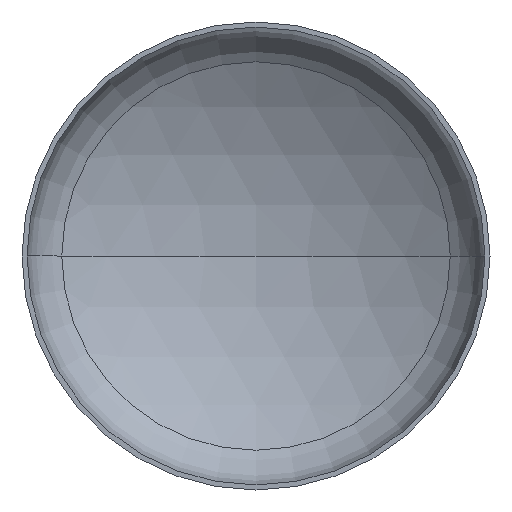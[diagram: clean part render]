
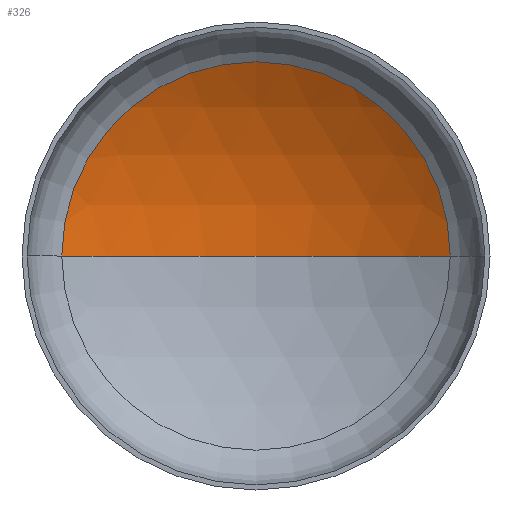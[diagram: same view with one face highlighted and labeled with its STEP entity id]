
A CAD part, front view. The second image highlights one B-rep face of the part: STEP entity #326.
In plain terms, the highlighted spherical face has radius 1920 mm.
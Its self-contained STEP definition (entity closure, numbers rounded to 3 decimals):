
#6 = DIRECTION ( 'NONE',  ( 0., 0., -1. ) ) ;
#9 = DIRECTION ( 'NONE',  ( 0., 0., 1. ) ) ;
#11 = CARTESIAN_POINT ( 'NONE',  ( 0., -1240.173, 0. ) ) ;
#17 = AXIS2_PLACEMENT_3D ( 'NONE', #11, #9, #353 ) ;
#19 = AXIS2_PLACEMENT_3D ( 'NONE', #255, #6, #320 ) ;
#20 = AXIS2_PLACEMENT_3D ( 'NONE', #178, #182, #183 ) ;
#32 = EDGE_LOOP ( 'NONE', ( #80, #70, #332 ) ) ;
#54 = VERTEX_POINT ( 'NONE', #231 ) ;
#64 = CARTESIAN_POINT ( 'NONE',  ( -995.923, 401.332, 0. ) ) ;
#65 = EDGE_CURVE ( 'NONE', #129, #393, #304, .T. ) ;
#66 = EDGE_CURVE ( 'NONE', #54, #129, #243, .T. ) ;
#70 = ORIENTED_EDGE ( 'NONE', *, *, #66, .T. ) ;
#71 = EDGE_CURVE ( 'NONE', #54, #393, #180, .T. ) ;
#80 = ORIENTED_EDGE ( 'NONE', *, *, #71, .F. ) ;
#129 = VERTEX_POINT ( 'NONE', #186 ) ;
#150 = DIRECTION ( 'NONE',  ( 0., 0., -1. ) ) ;
#178 = CARTESIAN_POINT ( 'NONE',  ( 0., 401.332, 0. ) ) ;
#180 = CIRCLE ( 'NONE', #17, 1920. ) ;
#182 = DIRECTION ( 'NONE',  ( 0., -1., 0. ) ) ;
#183 = DIRECTION ( 'NONE',  ( 1., 0., 0. ) ) ;
#186 = CARTESIAN_POINT ( 'NONE',  ( 995.923, 401.332, 0. ) ) ;
#231 = CARTESIAN_POINT ( 'NONE',  ( 0., 679.827, 0. ) ) ;
#233 = CARTESIAN_POINT ( 'NONE',  ( 0., -1240.173, 0. ) ) ;
#243 = CIRCLE ( 'NONE', #19, 1920. ) ;
#255 = CARTESIAN_POINT ( 'NONE',  ( 0., -1240.173, 0. ) ) ;
#266 = SPHERICAL_SURFACE ( 'NONE', #346, 1920. ) ;
#281 = FACE_OUTER_BOUND ( 'NONE', #32, .T. ) ;
#298 = DIRECTION ( 'NONE',  ( -1., 0., 0. ) ) ;
#304 = CIRCLE ( 'NONE', #20, 995.923 ) ;
#320 = DIRECTION ( 'NONE',  ( -1., 0., 0. ) ) ;
#326 = ADVANCED_FACE ( 'NONE', ( #281 ), #266, .F. ) ;
#332 = ORIENTED_EDGE ( 'NONE', *, *, #65, .T. ) ;
#346 = AXIS2_PLACEMENT_3D ( 'NONE', #233, #150, #298 ) ;
#353 = DIRECTION ( 'NONE',  ( 1., 0., 0. ) ) ;
#393 = VERTEX_POINT ( 'NONE', #64 ) ;
